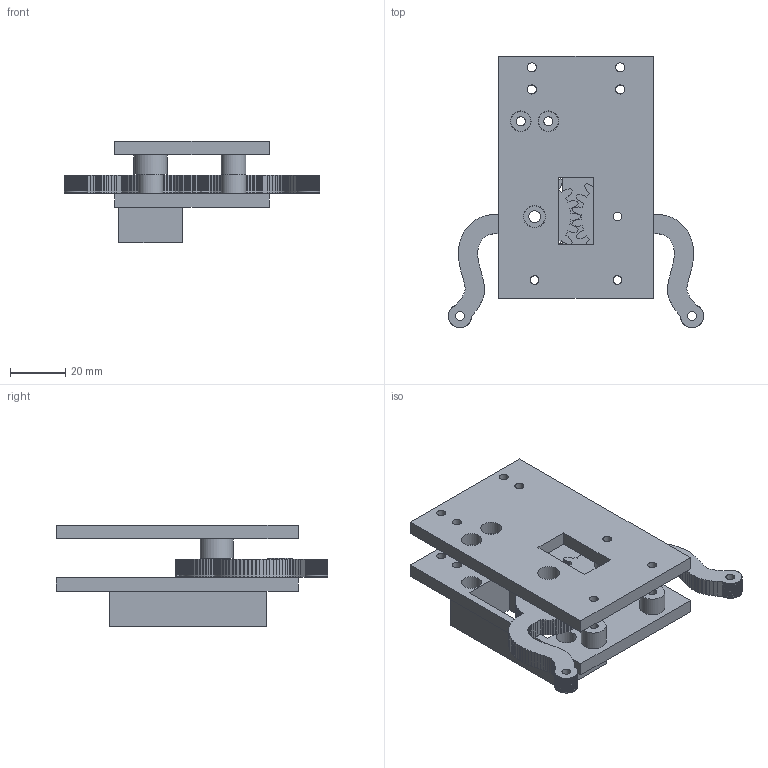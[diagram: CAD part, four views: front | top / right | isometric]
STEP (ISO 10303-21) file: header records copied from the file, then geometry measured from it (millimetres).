
FILE_DESCRIPTION(('FreeCAD Model'),'2;1');
FILE_NAME('Open CASCADE Shape Model','2026-11-25T13:37:37',('FreeCAD'),( 'FreeCAD'),'Open CASCADE STEP processor 7.8','FreeCAD','Unknown');
FILE_SCHEMA(('AUTOMOTIVE_DESIGN { 1 0 10303 214 1 1 1 1 }'));
Length unit declared in the file: millimetre
Products named in the file (1): Open CASCADE STEP translator 7.8 1
Bounding box: 92.4 x 98.2 x 36.8 mm (x, y, z)
Volume: 58355.2 mm3; surface area: 34467.9 mm2
Topology: 4 solids, 4 shells, 881 faces, 2565 edges, 1710 vertices
Faces by surface type: plane 847, cylinder 34
Full cylindrical faces by diameter (mm): 3.2 x9, 3.3 x12, 4.2 x1, 7.2 x4, 7.5 x2, 7.8 x1, 8 x1, 9 x3, 12 x1
Entity records: 28651 total; most frequent: CARTESIAN_POINT 5165, ORIENTED_EDGE 5130, DIRECTION 4389, EDGE_CURVE 2565, LINE 2489, VECTOR 2489, VERTEX_POINT 1710, FACE_BOUND 953
